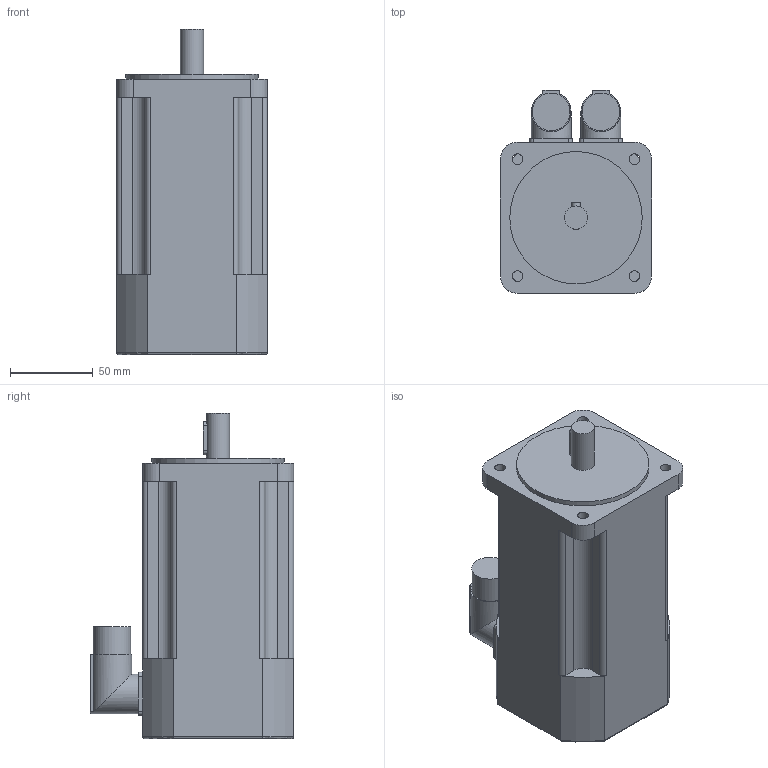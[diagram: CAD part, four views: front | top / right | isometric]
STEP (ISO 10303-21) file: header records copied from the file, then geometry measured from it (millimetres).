
FILE_DESCRIPTION(/* description */ (''),/* implementation_level */ '2;1');
FILE_NAME(/* name */ '\\Lafnas01\disegni\Archivi Lafert\3D\CAD 3D\MODELLI\Assiemi clienti\Serad\Modelli 3D Serad\B56Q\Encoder\Enc With Brake\B56E3Qxx6BRx2033.ipt.stp',/* time_stamp */ '2015-09-07T10:50:08+02:00',/* author */ ('Pastrello Ylenia'),/* organization */ (''),/* preprocessor_version */ 'ST-DEVELOPER v15.6',/* originating_system */ 'Autodesk Inventor 2015',/* authorisation */ '');
FILE_SCHEMA (('AUTOMOTIVE_DESIGN { 1 0 10303 214 3 1 1 }'));
Length unit declared in the file: millimetre
Products named in the file (1): B56E3Qxx6BRx2033
Bounding box: 91.3 x 122.8 x 196.5 mm (x, y, z)
Volume: 1302667.6 mm3; surface area: 85420.3 mm2
Topology: 1 solids, 1 shells, 99 faces, 260 edges, 170 vertices
Faces by surface type: plane 49, cylinder 46, torus 4
Full cylindrical faces by diameter (mm): 6.5 x4, 14 x1, 22.7 x2, 24 x2, 80 x1
Entity records: 3176 total; most frequent: CARTESIAN_POINT 658, DIRECTION 534, ORIENTED_EDGE 500, EDGE_CURVE 250, AXIS2_PLACEMENT_3D 194, VERTEX_POINT 170, LINE 146, VECTOR 146
